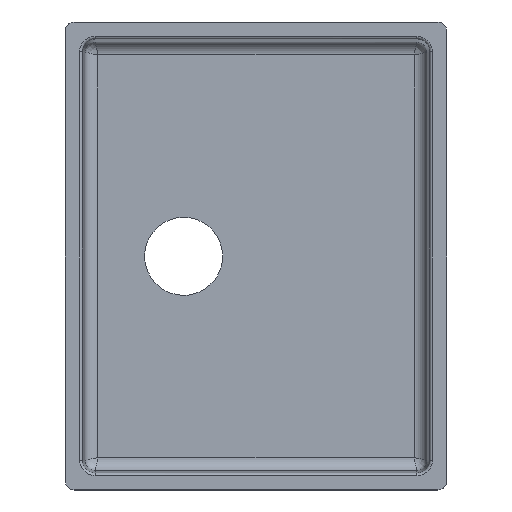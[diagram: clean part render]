
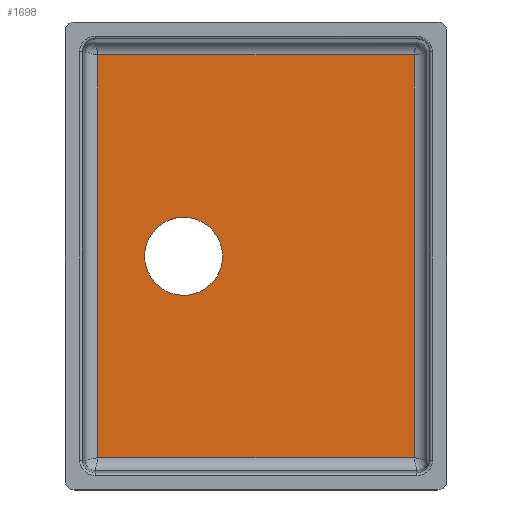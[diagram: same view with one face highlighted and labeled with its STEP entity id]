
A CAD part, top view. The second image highlights one B-rep face of the part: STEP entity #1698.
In plain terms, the highlighted planar face has unit normal (0, 0, 1).
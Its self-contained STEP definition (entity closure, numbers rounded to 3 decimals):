
#1473=CARTESIAN_POINT('Vertex',(-182.336,232.336,-199.)) ;
#1493=CARTESIAN_POINT('Vertex',(-182.336,-232.336,-199.)) ;
#1496=CARTESIAN_POINT('Line Origine',(-182.336,0.,-199.)) ;
#1610=CARTESIAN_POINT('Axis2P3D Location',(200.55,235.5,-199.)) ;
#1615=CARTESIAN_POINT('Line Origine',(200.55,232.336,-199.)) ;
#1619=CARTESIAN_POINT('Vertex',(182.336,232.336,-199.)) ;
#1622=CARTESIAN_POINT('Line Origine',(200.55,-232.336,-199.)) ;
#1626=CARTESIAN_POINT('Vertex',(182.336,-232.336,-199.)) ;
#1629=CARTESIAN_POINT('Line Origine',(182.336,235.5,-199.)) ;
#1641=CARTESIAN_POINT('Control Point',(-128.499,0.,-199.)) ;
#1642=CARTESIAN_POINT('Control Point',(-128.499,7.069,-199.)) ;
#1643=CARTESIAN_POINT('Control Point',(-127.111,14.137,-199.)) ;
#1644=CARTESIAN_POINT('Control Point',(-124.333,20.842,-199.)) ;
#1645=CARTESIAN_POINT('Control Point',(-116.3,32.801,-199.)) ;
#1646=CARTESIAN_POINT('Control Point',(-104.34,40.835,-199.)) ;
#1647=CARTESIAN_POINT('Control Point',(-97.636,43.612,-199.)) ;
#1648=CARTESIAN_POINT('Control Point',(-90.567,45.,-199.)) ;
#1649=CARTESIAN_POINT('Control Point',(-83.499,45.,-199.)) ;
#1650=CARTESIAN_POINT('Vertex',(-128.499,0.,-199.)) ;
#1652=CARTESIAN_POINT('Vertex',(-83.499,45.,-199.)) ;
#1656=CARTESIAN_POINT('Control Point',(-83.499,45.,-199.)) ;
#1657=CARTESIAN_POINT('Control Point',(-76.43,45.,-199.)) ;
#1658=CARTESIAN_POINT('Control Point',(-69.361,43.612,-199.)) ;
#1659=CARTESIAN_POINT('Control Point',(-62.657,40.835,-199.)) ;
#1660=CARTESIAN_POINT('Control Point',(-50.697,32.801,-199.)) ;
#1661=CARTESIAN_POINT('Control Point',(-42.664,20.842,-199.)) ;
#1662=CARTESIAN_POINT('Control Point',(-39.886,14.137,-199.)) ;
#1663=CARTESIAN_POINT('Control Point',(-38.499,7.069,-199.)) ;
#1664=CARTESIAN_POINT('Control Point',(-38.499,0.,-199.)) ;
#1665=CARTESIAN_POINT('Vertex',(-38.499,0.,-199.)) ;
#1669=CARTESIAN_POINT('Control Point',(-38.499,0.,-199.)) ;
#1670=CARTESIAN_POINT('Control Point',(-38.499,-7.069,-199.)) ;
#1671=CARTESIAN_POINT('Control Point',(-39.886,-14.137,-199.)) ;
#1672=CARTESIAN_POINT('Control Point',(-42.664,-20.842,-199.)) ;
#1673=CARTESIAN_POINT('Control Point',(-50.697,-32.801,-199.)) ;
#1674=CARTESIAN_POINT('Control Point',(-62.657,-40.835,-199.)) ;
#1675=CARTESIAN_POINT('Control Point',(-69.361,-43.612,-199.)) ;
#1676=CARTESIAN_POINT('Control Point',(-76.43,-45.,-199.)) ;
#1677=CARTESIAN_POINT('Control Point',(-83.499,-45.,-199.)) ;
#1678=CARTESIAN_POINT('Vertex',(-83.499,-45.,-199.)) ;
#1682=CARTESIAN_POINT('Control Point',(-83.499,-45.,-199.)) ;
#1683=CARTESIAN_POINT('Control Point',(-90.567,-45.,-199.)) ;
#1684=CARTESIAN_POINT('Control Point',(-97.636,-43.612,-199.)) ;
#1685=CARTESIAN_POINT('Control Point',(-104.34,-40.835,-199.)) ;
#1686=CARTESIAN_POINT('Control Point',(-116.3,-32.801,-199.)) ;
#1687=CARTESIAN_POINT('Control Point',(-124.333,-20.842,-199.)) ;
#1688=CARTESIAN_POINT('Control Point',(-127.111,-14.137,-199.)) ;
#1689=CARTESIAN_POINT('Control Point',(-128.499,-7.069,-199.)) ;
#1690=CARTESIAN_POINT('Control Point',(-128.499,0.,-199.)) ;
#1497=DIRECTION('Vector Direction',(0.,-1.,0.)) ;
#1611=DIRECTION('Axis2P3D Direction',(0.,0.,-1.)) ;
#1612=DIRECTION('Axis2P3D XDirection',(1.,0.,0.)) ;
#1616=DIRECTION('Vector Direction',(1.,0.,0.)) ;
#1623=DIRECTION('Vector Direction',(1.,0.,0.)) ;
#1630=DIRECTION('Vector Direction',(0.,-1.,0.)) ;
#1613=AXIS2_PLACEMENT_3D('Plane Axis2P3D',#1610,#1611,#1612) ;
#1635=ORIENTED_EDGE('',*,*,#1621,.F.) ;
#1636=ORIENTED_EDGE('',*,*,#1500,.F.) ;
#1637=ORIENTED_EDGE('',*,*,#1628,.F.) ;
#1638=ORIENTED_EDGE('',*,*,#1633,.F.) ;
#1693=ORIENTED_EDGE('',*,*,#1654,.T.) ;
#1694=ORIENTED_EDGE('',*,*,#1667,.T.) ;
#1695=ORIENTED_EDGE('',*,*,#1680,.T.) ;
#1696=ORIENTED_EDGE('',*,*,#1691,.T.) ;
#1697=FACE_BOUND('',#1692,.T.) ;
#1498=VECTOR('Line Direction',#1497,1.) ;
#1617=VECTOR('Line Direction',#1616,1.) ;
#1624=VECTOR('Line Direction',#1623,1.) ;
#1631=VECTOR('Line Direction',#1630,1.) ;
#1698=ADVANCED_FACE('Vasca',(#1639,#1697),#1614,.F.) ;
#1640=B_SPLINE_CURVE_WITH_KNOTS('',5,(#1641,#1642,#1643,#1644,#1645,#1646,#1647,#1648,#1649),.UNSPECIFIED.,.F.,.U.,(6,3,6),(141.372,176.715,212.058),.UNSPECIFIED.) ;
#1655=B_SPLINE_CURVE_WITH_KNOTS('',5,(#1656,#1657,#1658,#1659,#1660,#1661,#1662,#1663,#1664),.UNSPECIFIED.,.F.,.U.,(6,3,6),(212.058,247.4,282.743),.UNSPECIFIED.) ;
#1668=B_SPLINE_CURVE_WITH_KNOTS('',5,(#1669,#1670,#1671,#1672,#1673,#1674,#1675,#1676,#1677),.UNSPECIFIED.,.F.,.U.,(6,3,6),(0.,35.343,70.686),.UNSPECIFIED.) ;
#1681=B_SPLINE_CURVE_WITH_KNOTS('',5,(#1682,#1683,#1684,#1685,#1686,#1687,#1688,#1689,#1690),.UNSPECIFIED.,.F.,.U.,(6,3,6),(70.686,106.029,141.372),.UNSPECIFIED.) ;
#1500=EDGE_CURVE('',#1494,#1474,#1499,.F.) ;
#1621=EDGE_CURVE('',#1474,#1620,#1618,.T.) ;
#1628=EDGE_CURVE('',#1627,#1494,#1625,.F.) ;
#1633=EDGE_CURVE('',#1620,#1627,#1632,.T.) ;
#1654=EDGE_CURVE('',#1651,#1653,#1640,.T.) ;
#1667=EDGE_CURVE('',#1653,#1666,#1655,.T.) ;
#1680=EDGE_CURVE('',#1666,#1679,#1668,.T.) ;
#1691=EDGE_CURVE('',#1679,#1651,#1681,.T.) ;
#1634=EDGE_LOOP('',(#1635,#1636,#1637,#1638)) ;
#1692=EDGE_LOOP('',(#1693,#1694,#1695,#1696)) ;
#1639=FACE_OUTER_BOUND('',#1634,.T.) ;
#1499=LINE('Line',#1496,#1498) ;
#1618=LINE('Line',#1615,#1617) ;
#1625=LINE('Line',#1622,#1624) ;
#1632=LINE('Line',#1629,#1631) ;
#1614=PLANE('',#1613) ;
#1474=VERTEX_POINT('',#1473) ;
#1494=VERTEX_POINT('',#1493) ;
#1620=VERTEX_POINT('',#1619) ;
#1627=VERTEX_POINT('',#1626) ;
#1651=VERTEX_POINT('',#1650) ;
#1653=VERTEX_POINT('',#1652) ;
#1666=VERTEX_POINT('',#1665) ;
#1679=VERTEX_POINT('',#1678) ;
